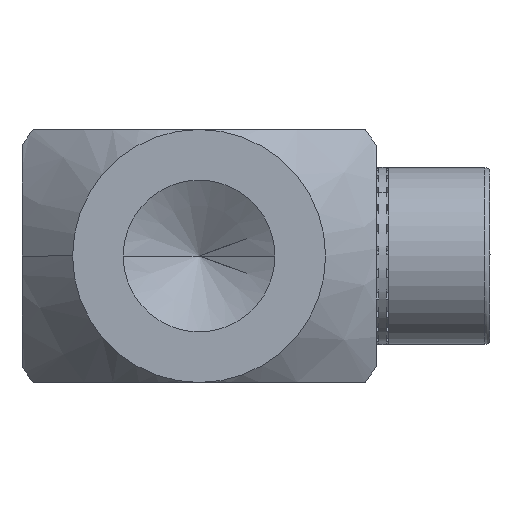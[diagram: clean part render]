
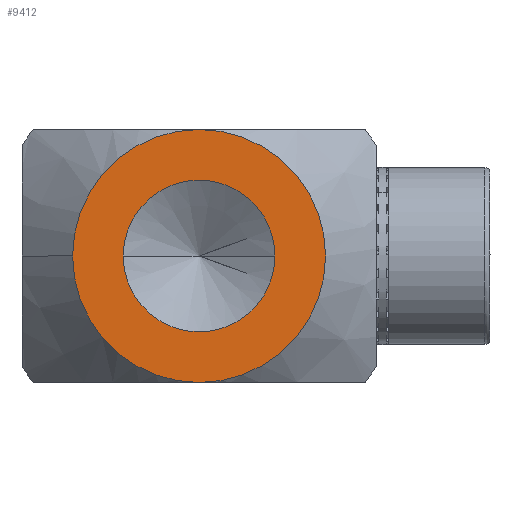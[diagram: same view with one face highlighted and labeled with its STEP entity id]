
A CAD part, front view. The second image highlights one B-rep face of the part: STEP entity #9412.
In plain terms, the highlighted planar face has unit normal (0, -1, 0).
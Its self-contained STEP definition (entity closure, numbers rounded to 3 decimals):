
#31 = CIRCLE ( 'NONE', #12228, 5. ) ;
#102 = EDGE_LOOP ( 'NONE', ( #3492, #8337 ) ) ;
#400 = CARTESIAN_POINT ( 'NONE',  ( 11.293, -41.837, 0. ) ) ;
#632 = FACE_OUTER_BOUND ( 'NONE', #102, .T. ) ;
#923 = EDGE_CURVE ( 'NONE', #6290, #10989, #5400, .T. ) ;
#1109 = EDGE_CURVE ( 'NONE', #3391, #4070, #31, .T. ) ;
#1175 = EDGE_CURVE ( 'NONE', #10989, #6290, #8680, .T. ) ;
#1671 = AXIS2_PLACEMENT_3D ( 'NONE', #10937, #11062, #12048 ) ;
#2400 = AXIS2_PLACEMENT_3D ( 'NONE', #8077, #2410, #9016 ) ;
#2410 = DIRECTION ( 'NONE',  ( 0., -1., 0. ) ) ;
#2695 = CIRCLE ( 'NONE', #2400, 5. ) ;
#3083 = CARTESIAN_POINT ( 'NONE',  ( 14.293, -41.837, 0. ) ) ;
#3219 = DIRECTION ( 'NONE',  ( 0., 1., 0. ) ) ;
#3391 = VERTEX_POINT ( 'NONE', #11810 ) ;
#3492 = ORIENTED_EDGE ( 'NONE', *, *, #4359, .T. ) ;
#3665 = DIRECTION ( 'NONE',  ( 0., 0., 1. ) ) ;
#4070 = VERTEX_POINT ( 'NONE', #7396 ) ;
#4204 = CARTESIAN_POINT ( 'NONE',  ( 9.739, -41.837, -4.554 ) ) ;
#4359 = EDGE_CURVE ( 'NONE', #4070, #3391, #2695, .T. ) ;
#5158 = DIRECTION ( 'NONE',  ( 0., 0., 1. ) ) ;
#5400 = CIRCLE ( 'NONE', #1671, 3. ) ;
#5732 = FACE_BOUND ( 'NONE', #8898, .T. ) ;
#5755 = CARTESIAN_POINT ( 'NONE',  ( 14.293, -41.837, 0. ) ) ;
#5881 = DIRECTION ( 'NONE',  ( 0., -1., 0. ) ) ;
#6290 = VERTEX_POINT ( 'NONE', #10570 ) ;
#6325 = AXIS2_PLACEMENT_3D ( 'NONE', #3083, #3219, #3665 ) ;
#6390 = ORIENTED_EDGE ( 'NONE', *, *, #923, .T. ) ;
#6631 = DIRECTION ( 'NONE',  ( 0., 0., 1. ) ) ;
#7396 = CARTESIAN_POINT ( 'NONE',  ( 19.293, -41.837, 0. ) ) ;
#8077 = CARTESIAN_POINT ( 'NONE',  ( 14.293, -41.837, 0. ) ) ;
#8337 = ORIENTED_EDGE ( 'NONE', *, *, #1109, .T. ) ;
#8680 = CIRCLE ( 'NONE', #6325, 3. ) ;
#8898 = EDGE_LOOP ( 'NONE', ( #6390, #9764 ) ) ;
#9016 = DIRECTION ( 'NONE',  ( 0., 0., 1. ) ) ;
#9412 = ADVANCED_FACE ( 'NONE', ( #5732, #632 ), #9829, .F. ) ;
#9764 = ORIENTED_EDGE ( 'NONE', *, *, #1175, .T. ) ;
#9829 = PLANE ( 'NONE',  #10376 ) ;
#10376 = AXIS2_PLACEMENT_3D ( 'NONE', #4204, #10824, #5158 ) ;
#10570 = CARTESIAN_POINT ( 'NONE',  ( 17.293, -41.837, 0. ) ) ;
#10824 = DIRECTION ( 'NONE',  ( 0., 1., 0. ) ) ;
#10937 = CARTESIAN_POINT ( 'NONE',  ( 14.293, -41.837, 0. ) ) ;
#10989 = VERTEX_POINT ( 'NONE', #400 ) ;
#11062 = DIRECTION ( 'NONE',  ( 0., 1., 0. ) ) ;
#11810 = CARTESIAN_POINT ( 'NONE',  ( 9.293, -41.837, 0. ) ) ;
#12048 = DIRECTION ( 'NONE',  ( 0., 0., 1. ) ) ;
#12228 = AXIS2_PLACEMENT_3D ( 'NONE', #5755, #5881, #6631 ) ;
